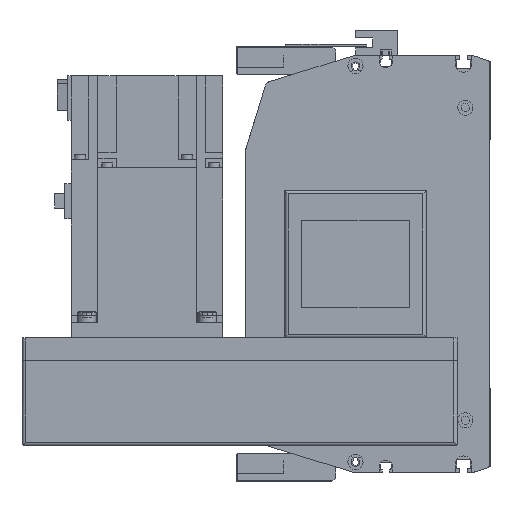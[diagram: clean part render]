
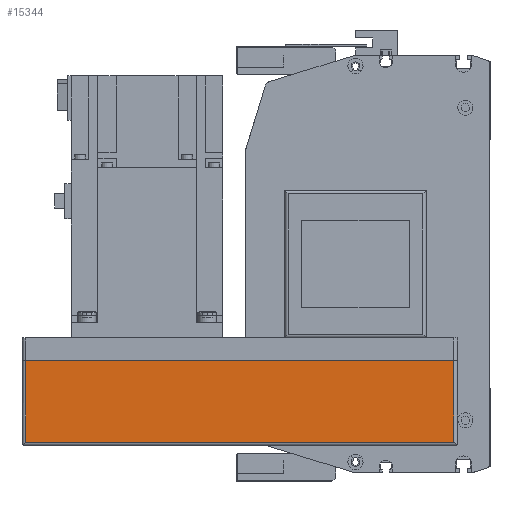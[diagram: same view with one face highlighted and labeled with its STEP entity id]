
A CAD part, left-side view. The second image highlights one B-rep face of the part: STEP entity #15344.
In plain terms, the highlighted planar face has unit normal (-1, 0, 0) as drawn and (0, -1, 0) by its records, which use the part's own axes.
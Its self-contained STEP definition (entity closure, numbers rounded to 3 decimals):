
#2483=ORIENTED_EDGE('',*,*,#6174,.F.);
#2484=ORIENTED_EDGE('',*,*,#6177,.T.);
#2485=ORIENTED_EDGE('',*,*,#6178,.T.);
#2486=ORIENTED_EDGE('',*,*,#6179,.F.);
#6174=EDGE_CURVE('',#8147,#8148,#9739,.T.);
#6177=EDGE_CURVE('',#8147,#8150,#9741,.T.);
#6178=EDGE_CURVE('',#8150,#8151,#9742,.T.);
#6179=EDGE_CURVE('',#8148,#8151,#9743,.T.);
#8147=VERTEX_POINT('',#23925);
#8148=VERTEX_POINT('',#23927);
#8150=VERTEX_POINT('',#23933);
#8151=VERTEX_POINT('',#23935);
#9739=LINE('',#23926,#11096);
#9741=LINE('',#23932,#11098);
#9742=LINE('',#23934,#11099);
#9743=LINE('',#23936,#11100);
#11096=VECTOR('',#19084,1000.);
#11098=VECTOR('',#19090,1000.);
#11099=VECTOR('',#19091,1000.);
#11100=VECTOR('',#19092,1000.);
#12278=EDGE_LOOP('',(#2483,#2484,#2485,#2486));
#13563=FACE_BOUND('',#12278,.T.);
#14704=PLANE('',#16456);
#15344=ADVANCED_FACE('',(#13563),#14704,.T.);
#16456=AXIS2_PLACEMENT_3D('',#23931,#19088,#19089);
#19084=DIRECTION('',(0.,0.,1.));
#19088=DIRECTION('',(0.,-1.,0.));
#19089=DIRECTION('',(0.,0.,-1.));
#19090=DIRECTION('',(1.,0.,0.));
#19091=DIRECTION('',(0.,0.,1.));
#19092=DIRECTION('',(1.,0.,0.));
#23925=CARTESIAN_POINT('',(-228.,-54.,-55.));
#23926=CARTESIAN_POINT('',(-228.,-54.,-57.));
#23927=CARTESIAN_POINT('',(-228.,-54.,-12.));
#23931=CARTESIAN_POINT('',(-228.,-54.,-57.));
#23932=CARTESIAN_POINT('',(-230.,-54.,-55.));
#23933=CARTESIAN_POINT('',(-2.,-54.,-55.));
#23934=CARTESIAN_POINT('',(-2.,-54.,-57.));
#23935=CARTESIAN_POINT('',(-2.,-54.,-12.));
#23936=CARTESIAN_POINT('',(-228.,-54.,-12.));
